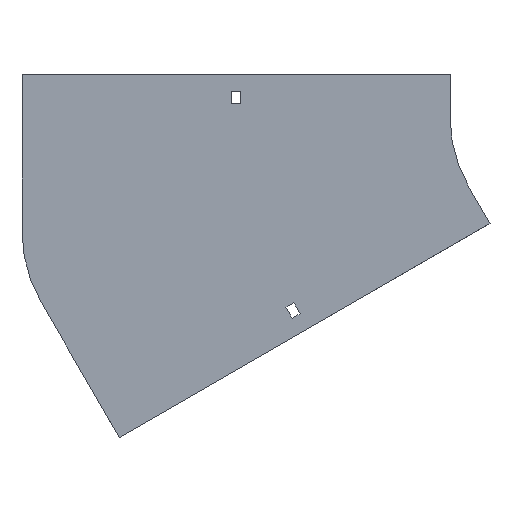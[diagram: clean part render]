
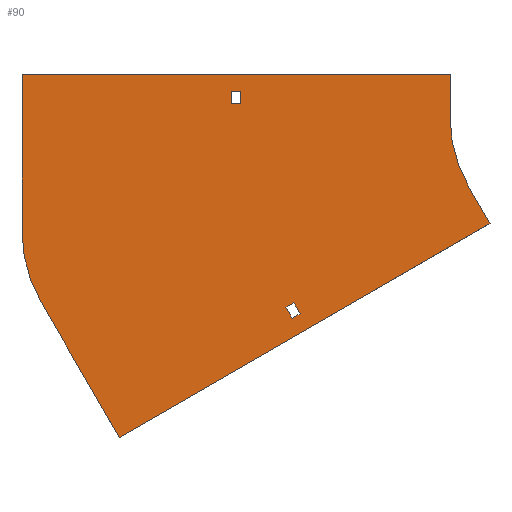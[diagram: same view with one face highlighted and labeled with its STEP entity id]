
A CAD part, front view. The second image highlights one B-rep face of the part: STEP entity #90.
In plain terms, the highlighted planar face has unit normal (0, -1, 0).
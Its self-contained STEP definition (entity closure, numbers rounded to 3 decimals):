
#14 = VECTOR ( 'NONE', #450, 1000. ) ;
#16 = LINE ( 'NONE', #138, #679 ) ;
#24 = EDGE_CURVE ( 'NONE', #395, #634, #799, .T. ) ;
#40 = LINE ( 'NONE', #1132, #794 ) ;
#45 = EDGE_CURVE ( 'NONE', #668, #265, #16, .T. ) ;
#77 = FACE_BOUND ( 'NONE', #1078, .T. ) ;
#79 = VERTEX_POINT ( 'NONE', #1056 ) ;
#80 = CARTESIAN_POINT ( 'NONE',  ( -255.25, 0., 18. ) ) ;
#85 = DIRECTION ( 'NONE',  ( 0., 0., -1. ) ) ;
#90 = ADVANCED_FACE ( 'NONE', ( #1062, #954, #77 ), #613, .T. ) ;
#95 = CARTESIAN_POINT ( 'NONE',  ( -404., 0., -81.457 ) ) ;
#101 = CARTESIAN_POINT ( 'NONE',  ( -210.924, 0., -132.169 ) ) ;
#103 = CARTESIAN_POINT ( 'NONE',  ( -248.75, 0., 18. ) ) ;
#115 = DIRECTION ( 'NONE',  ( 0., 1., 0. ) ) ;
#117 = DIRECTION ( 'NONE',  ( 0., 0., 1. ) ) ;
#130 = ORIENTED_EDGE ( 'NONE', *, *, #930, .F. ) ;
#134 = VECTOR ( 'NONE', #700, 1000. ) ;
#138 = CARTESIAN_POINT ( 'NONE',  ( -255.25, 0., 18. ) ) ;
#163 = LINE ( 'NONE', #941, #616 ) ;
#166 = CARTESIAN_POINT ( 'NONE',  ( -248.75, 0., 9. ) ) ;
#205 = DIRECTION ( 'NONE',  ( 0., 0., -1. ) ) ;
#206 = VERTEX_POINT ( 'NONE', #671 ) ;
#207 = ORIENTED_EDGE ( 'NONE', *, *, #827, .F. ) ;
#227 = CARTESIAN_POINT ( 'NONE',  ( -86.603, 0., -50. ) ) ;
#231 = DIRECTION ( 'NONE',  ( 0., 0., -1. ) ) ;
#265 = VERTEX_POINT ( 'NONE', #103 ) ;
#268 = CARTESIAN_POINT ( 'NONE',  ( -334.874, 0., -227.981 ) ) ;
#291 = CARTESIAN_POINT ( 'NONE',  ( -248.75, 0., 9. ) ) ;
#292 = ORIENTED_EDGE ( 'NONE', *, *, #1125, .F. ) ;
#296 = EDGE_LOOP ( 'NONE', ( #854, #1003, #661, #313 ) ) ;
#313 = ORIENTED_EDGE ( 'NONE', *, *, #615, .T. ) ;
#323 = VERTEX_POINT ( 'NONE', #1088 ) ;
#354 = CARTESIAN_POINT ( 'NONE',  ( -255.25, 0., 9. ) ) ;
#357 = VECTOR ( 'NONE', #1013, 1000. ) ;
#359 = VERTEX_POINT ( 'NONE', #500 ) ;
#364 = CARTESIAN_POINT ( 'NONE',  ( -404., 0., 30. ) ) ;
#374 = DIRECTION ( 'NONE',  ( 0., 0., -1. ) ) ;
#377 = VERTEX_POINT ( 'NONE', #166 ) ;
#386 = VECTOR ( 'NONE', #117, 1000. ) ;
#393 = DIRECTION ( 'NONE',  ( 1., 0., 0. ) ) ;
#394 = LINE ( 'NONE', #932, #1244 ) ;
#395 = VERTEX_POINT ( 'NONE', #364 ) ;
#399 = DIRECTION ( 'NONE',  ( 0.866, 0., 0.5 ) ) ;
#450 = DIRECTION ( 'NONE',  ( 0.5, 0., -0.866 ) ) ;
#471 = CARTESIAN_POINT ( 'NONE',  ( -71.603, 0., -75.981 ) ) ;
#496 = LINE ( 'NONE', #291, #1366 ) ;
#500 = CARTESIAN_POINT ( 'NONE',  ( -71.603, 0., -75.981 ) ) ;
#517 = ORIENTED_EDGE ( 'NONE', *, *, #846, .F. ) ;
#530 = EDGE_CURVE ( 'NONE', #206, #668, #1337, .T. ) ;
#545 = VECTOR ( 'NONE', #231, 1000. ) ;
#559 = CARTESIAN_POINT ( 'NONE',  ( -100., 0., 30. ) ) ;
#566 = LINE ( 'NONE', #471, #938 ) ;
#591 = DIRECTION ( 'NONE',  ( -0.866, 0., -0.5 ) ) ;
#613 = PLANE ( 'NONE',  #839 ) ;
#615 = EDGE_CURVE ( 'NONE', #377, #206, #694, .T. ) ;
#616 = VECTOR ( 'NONE', #591, 1000. ) ;
#634 = VERTEX_POINT ( 'NONE', #785 ) ;
#637 = AXIS2_PLACEMENT_3D ( 'NONE', #1189, #744, #205 ) ;
#661 = ORIENTED_EDGE ( 'NONE', *, *, #1100, .T. ) ;
#668 = VERTEX_POINT ( 'NONE', #80 ) ;
#671 = CARTESIAN_POINT ( 'NONE',  ( -255.25, 0., 9. ) ) ;
#679 = VECTOR ( 'NONE', #833, 1000. ) ;
#684 = CIRCLE ( 'NONE', #637, 100. ) ;
#694 = LINE ( 'NONE', #354, #702 ) ;
#699 = DIRECTION ( 'NONE',  ( -1., 0., 0. ) ) ;
#700 = DIRECTION ( 'NONE',  ( -0.5, 0., 0.866 ) ) ;
#702 = VECTOR ( 'NONE', #699, 1000. ) ;
#744 = DIRECTION ( 'NONE',  ( 0., -1., 0. ) ) ;
#768 = LINE ( 'NONE', #227, #357 ) ;
#779 = EDGE_CURVE ( 'NONE', #894, #323, #1245, .T. ) ;
#785 = CARTESIAN_POINT ( 'NONE',  ( -100., 0., 30. ) ) ;
#794 = VECTOR ( 'NONE', #904, 1000. ) ;
#799 = LINE ( 'NONE', #940, #1293 ) ;
#814 = ORIENTED_EDGE ( 'NONE', *, *, #1039, .F. ) ;
#827 = EDGE_CURVE ( 'NONE', #880, #395, #968, .T. ) ;
#833 = DIRECTION ( 'NONE',  ( 1., 0., 0. ) ) ;
#835 = VERTEX_POINT ( 'NONE', #101 ) ;
#839 = AXIS2_PLACEMENT_3D ( 'NONE', #970, #857, #85 ) ;
#845 = VECTOR ( 'NONE', #914, 1000. ) ;
#846 = EDGE_CURVE ( 'NONE', #1152, #997, #684, .T. ) ;
#854 = ORIENTED_EDGE ( 'NONE', *, *, #530, .T. ) ;
#857 = DIRECTION ( 'NONE',  ( 0., -1., 0. ) ) ;
#877 = EDGE_LOOP ( 'NONE', ( #961, #207, #923, #942, #1402, #1071, #517, #1323 ) ) ;
#880 = VERTEX_POINT ( 'NONE', #1072 ) ;
#882 = AXIS2_PLACEMENT_3D ( 'NONE', #1127, #115, #1119 ) ;
#894 = VERTEX_POINT ( 'NONE', #1001 ) ;
#904 = DIRECTION ( 'NONE',  ( -0.5, 0., 0.866 ) ) ;
#914 = DIRECTION ( 'NONE',  ( 0., 0., 1. ) ) ;
#923 = ORIENTED_EDGE ( 'NONE', *, *, #1285, .F. ) ;
#930 = EDGE_CURVE ( 'NONE', #79, #835, #40, .T. ) ;
#932 = CARTESIAN_POINT ( 'NONE',  ( -212.053, 0., -143.213 ) ) ;
#938 = VECTOR ( 'NONE', #1010, 1000. ) ;
#940 = CARTESIAN_POINT ( 'NONE',  ( -404., 0., 30. ) ) ;
#941 = CARTESIAN_POINT ( 'NONE',  ( -216.553, 0., -135.419 ) ) ;
#942 = ORIENTED_EDGE ( 'NONE', *, *, #779, .F. ) ;
#954 = FACE_OUTER_BOUND ( 'NONE', #877, .T. ) ;
#961 = ORIENTED_EDGE ( 'NONE', *, *, #24, .F. ) ;
#968 = LINE ( 'NONE', #95, #386 ) ;
#970 = CARTESIAN_POINT ( 'NONE',  ( 0., 0., 0. ) ) ;
#978 = EDGE_CURVE ( 'NONE', #634, #1152, #1210, .T. ) ;
#979 = CARTESIAN_POINT ( 'NONE',  ( -100., 0., 0. ) ) ;
#991 = LINE ( 'NONE', #1208, #14 ) ;
#997 = VERTEX_POINT ( 'NONE', #1321 ) ;
#1001 = CARTESIAN_POINT ( 'NONE',  ( -334.874, 0., -227.981 ) ) ;
#1002 = CIRCLE ( 'NONE', #882, 100. ) ;
#1003 = ORIENTED_EDGE ( 'NONE', *, *, #45, .T. ) ;
#1004 = EDGE_CURVE ( 'NONE', #359, #894, #566, .T. ) ;
#1010 = DIRECTION ( 'NONE',  ( -0.866, 0., -0.5 ) ) ;
#1013 = DIRECTION ( 'NONE',  ( 0.5, 0., -0.866 ) ) ;
#1039 = EDGE_CURVE ( 'NONE', #835, #1290, #163, .T. ) ;
#1056 = CARTESIAN_POINT ( 'NONE',  ( -206.424, 0., -139.963 ) ) ;
#1062 = FACE_BOUND ( 'NONE', #296, .T. ) ;
#1071 = ORIENTED_EDGE ( 'NONE', *, *, #1328, .F. ) ;
#1072 = CARTESIAN_POINT ( 'NONE',  ( -404., 0., -81.457 ) ) ;
#1078 = EDGE_LOOP ( 'NONE', ( #292, #1183, #814, #130 ) ) ;
#1088 = CARTESIAN_POINT ( 'NONE',  ( -390.603, 0., -131.457 ) ) ;
#1100 = EDGE_CURVE ( 'NONE', #265, #377, #496, .T. ) ;
#1119 = DIRECTION ( 'NONE',  ( 0., 0., 1. ) ) ;
#1125 = EDGE_CURVE ( 'NONE', #1144, #79, #394, .T. ) ;
#1127 = CARTESIAN_POINT ( 'NONE',  ( -304., 0., -81.457 ) ) ;
#1130 = CARTESIAN_POINT ( 'NONE',  ( -255.25, 0., 9. ) ) ;
#1132 = CARTESIAN_POINT ( 'NONE',  ( -210.924, 0., -132.169 ) ) ;
#1144 = VERTEX_POINT ( 'NONE', #1242 ) ;
#1152 = VERTEX_POINT ( 'NONE', #979 ) ;
#1183 = ORIENTED_EDGE ( 'NONE', *, *, #1349, .F. ) ;
#1189 = CARTESIAN_POINT ( 'NONE',  ( 0., 0., 0. ) ) ;
#1208 = CARTESIAN_POINT ( 'NONE',  ( -216.553, 0., -135.419 ) ) ;
#1210 = LINE ( 'NONE', #559, #545 ) ;
#1242 = CARTESIAN_POINT ( 'NONE',  ( -212.053, 0., -143.213 ) ) ;
#1244 = VECTOR ( 'NONE', #399, 1000. ) ;
#1245 = LINE ( 'NONE', #268, #134 ) ;
#1285 = EDGE_CURVE ( 'NONE', #323, #880, #1002, .T. ) ;
#1290 = VERTEX_POINT ( 'NONE', #1326 ) ;
#1293 = VECTOR ( 'NONE', #393, 1000. ) ;
#1321 = CARTESIAN_POINT ( 'NONE',  ( -86.603, 0., -50. ) ) ;
#1323 = ORIENTED_EDGE ( 'NONE', *, *, #978, .F. ) ;
#1326 = CARTESIAN_POINT ( 'NONE',  ( -216.553, 0., -135.419 ) ) ;
#1328 = EDGE_CURVE ( 'NONE', #997, #359, #768, .T. ) ;
#1337 = LINE ( 'NONE', #1130, #845 ) ;
#1349 = EDGE_CURVE ( 'NONE', #1290, #1144, #991, .T. ) ;
#1366 = VECTOR ( 'NONE', #374, 1000. ) ;
#1402 = ORIENTED_EDGE ( 'NONE', *, *, #1004, .F. ) ;
